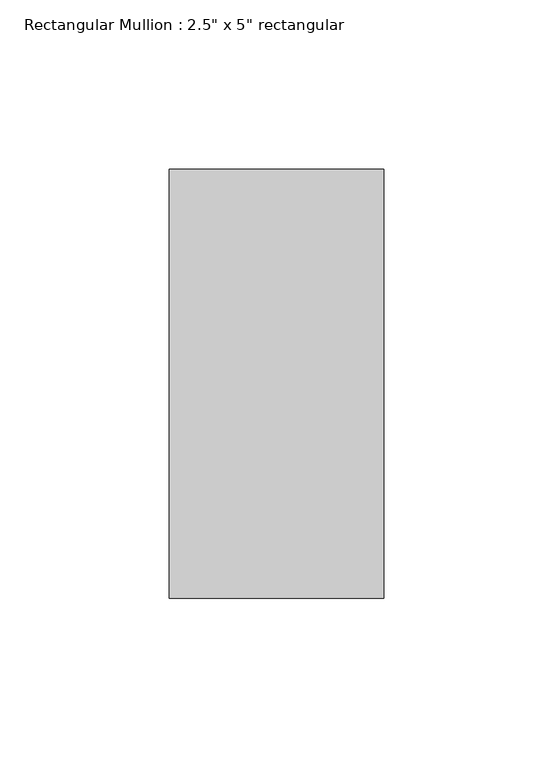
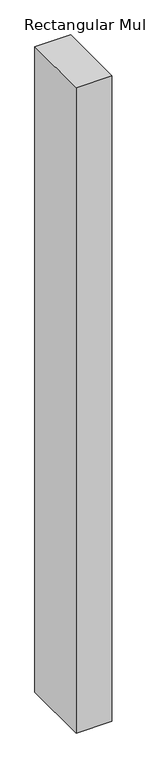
"""IFC4 building model written with IfcOpenShell, lengths in millimetres: member geometry."""

import ifcopenshell
import ifcopenshell.guid

model = None  # the IFC model being written
_history = None  # IfcOwnerHistory: only IFC2X3 demands one
_inside = {}  # id of a spatial element -> (the spatial element, [elements in it])
_under = {}  # id of a project, library or spatial element -> (it, [spatial elements below it])
_declared = {}  # id of a project -> (the project, [libraries it declares])
_typed = {}  # id of a type object -> (the type object, [elements of that type])
_made_of = {}  # id of a material, layer set ... -> (it, [elements and type objects made of it])


def new_model(schema):
    """Start an empty IFC model of exactly this schema.

    Asked for "IFC4X3", IfcOpenShell would pick the latest addendum, in which some entities
    have other attributes; the version numbers below select the first issue.
    IFC2X3 requires an IfcOwnerHistory on every rooted entity: one is made here for all.
    """
    global model, _history
    if schema == "IFC4X3":
        model = ifcopenshell.file(schema_version=(4, 3, 0, 0))
    else:
        model = ifcopenshell.file(schema=schema)
    _inside.clear()
    _under.clear()
    _declared.clear()
    _typed.clear()
    _made_of.clear()
    _history = None
    if model.schema == "IFC2X3":
        org = make("IfcOrganization", Name="unknown")
        user = make(
            "IfcPersonAndOrganization",
            ThePerson=make("IfcPerson", FamilyName="unknown"),
            TheOrganization=org,
        )
        app = make(
            "IfcApplication",
            ApplicationDeveloper=org,
            Version="unknown",
            ApplicationFullName="unknown",
            ApplicationIdentifier="unknown",
        )
        _history = make(
            "IfcOwnerHistory",
            OwningUser=user,
            OwningApplication=app,
            ChangeAction="ADDED",
            CreationDate=0,
        )
    return model


def make(cls, **values):
    """One entity of the class cls with the attributes given. An attribute that is None is left unset."""
    return model.create_entity(
        cls, **{name: value for name, value in values.items() if value is not None}
    )


def rooted(cls, **values):
    """An entity with a GlobalId (a new one), such as an element, a storey or a relation."""
    return make(cls, GlobalId=ifcopenshell.guid.new(), OwnerHistory=_history, **values)


def si_unit(unit_type, name, prefix=None):
    """IfcSIUnit, for example si_unit("LENGTHUNIT", "METRE", prefix="MILLI")."""
    return make("IfcSIUnit", UnitType=unit_type, Prefix=prefix, Name=name)


def assignment(units):
    """IfcUnitAssignment: the units of a project."""
    return None if units is None else make("IfcUnitAssignment", Units=units)


def point(xyz):
    """IfcCartesianPoint."""
    return None if xyz is None else make("IfcCartesianPoint", Coordinates=xyz)


def direction(xyz):
    """IfcDirection."""
    return None if xyz is None else make("IfcDirection", DirectionRatios=xyz)


def frame(location, z_axis=None, x_axis=None):
    """IfcAxis2Placement3D, a coordinate frame: its origin and axes. An axis left out is left unset."""
    return make(
        "IfcAxis2Placement3D",
        Location=point(location),
        Axis=direction(z_axis),
        RefDirection=direction(x_axis),
    )


def origin():
    """The frame at (0, 0, 0) with its axes left unset."""
    return frame((0.0, 0.0, 0.0))


def place(relative_to, where):
    """IfcLocalPlacement: puts the frame where relative to a parent placement (None: the world)."""
    return make(
        "IfcLocalPlacement", PlacementRelTo=relative_to, RelativePlacement=where
    )


def context(
    kind, dimensions, precision=None, world=None, true_north=None, identifier=None
):
    """IfcGeometricRepresentationContext, for example the 3D "Model" context."""
    return make(
        "IfcGeometricRepresentationContext",
        ContextIdentifier=identifier,
        ContextType=kind,
        CoordinateSpaceDimension=dimensions,
        Precision=precision,
        WorldCoordinateSystem=world,
        TrueNorth=true_north,
    )


def project(units=None, contexts=None):
    """IfcProject with its units and contexts."""
    return rooted(
        "IfcProject",
        Name="project",
        RepresentationContexts=contexts,
        UnitsInContext=assignment(units),
    )


def spatial(cls, under=None, at=None, **own):
    """A site, building, storey or space (cls), placed at a placement, below another one or the project."""
    s = rooted(cls, ObjectPlacement=at, **own)
    if under is not None:
        _under.setdefault(under.id(), (under, []))[1].append(s)
    return s


def polyline(points):
    """IfcPolyline through the points."""
    return make("IfcPolyline", Points=[point(p) for p in points])


def outline(outer, holes=None, kind="AREA"):
    """IfcArbitraryClosedProfileDef: a profile drawn as a closed curve; with holes, ...WithVoids."""
    if holes is None:
        return make("IfcArbitraryClosedProfileDef", ProfileType=kind, OuterCurve=outer)
    return make(
        "IfcArbitraryProfileDefWithVoids",
        ProfileType=kind,
        OuterCurve=outer,
        InnerCurves=holes,
    )


def extrude(swept, where, along, depth):
    """IfcExtrudedAreaSolid: the profile swept, set in the frame where, extruded along a direction by depth."""
    return make(
        "IfcExtrudedAreaSolid",
        SweptArea=swept,
        Position=where,
        ExtrudedDirection=direction(along),
        Depth=depth,
    )


def shape(context_of_items, identifier, shape_type, items):
    """IfcShapeRepresentation: the items that make up one representation, for example the "Body"."""
    return make(
        "IfcShapeRepresentation",
        ContextOfItems=context_of_items,
        RepresentationIdentifier=identifier,
        RepresentationType=shape_type,
        Items=items,
    )


def source(mapping_origin, context_of_items, identifier, shape_type, items):
    """IfcRepresentationMap: a shape defined once, which mapped items show again and again."""
    return make(
        "IfcRepresentationMap",
        MappingOrigin=mapping_origin,
        MappedRepresentation=shape(context_of_items, identifier, shape_type, items),
    )


def transform(
    local_origin,
    x_axis=None,
    y_axis=None,
    z_axis=None,
    scale=None,
    scale2=None,
    scale3=None,
    uniform=True,
):
    """IfcCartesianTransformationOperator3D, or its non-uniform kind. x_axis, y_axis, z_axis: its Axis1, 2, 3."""
    if uniform:
        return make(
            "IfcCartesianTransformationOperator3D",
            Axis1=direction(x_axis),
            Axis2=direction(y_axis),
            LocalOrigin=point(local_origin),
            Scale=scale,
            Axis3=direction(z_axis),
        )
    return make(
        "IfcCartesianTransformationOperator3DnonUniform",
        Axis1=direction(x_axis),
        Axis2=direction(y_axis),
        LocalOrigin=point(local_origin),
        Scale=scale,
        Axis3=direction(z_axis),
        Scale2=scale2,
        Scale3=scale3,
    )


def mapped(mapping_source, mapping_target):
    """IfcMappedItem: shows the shape of a source again, moved by a transform."""
    return make(
        "IfcMappedItem", MappingSource=mapping_source, MappingTarget=mapping_target
    )


def made_of(thing, what):
    """Note that an element or type object is made of a material, layer set ...; save() writes the relation."""
    if what is not None:
        _made_of.setdefault(what.id(), (what, []))[1].append(thing)
    return thing


def element(
    cls,
    number,
    at=None,
    inside=None,
    cuts=None,
    type_object=None,
    material=None,
    context=None,
    identifier="Body",
    shape_type=None,
    held_by="IfcProductDefinitionShape",
    body=None,
    shapes=None,
    **own,
):
    """One element of the class cls, such as IfcWall. Its Tag is "e" and its number.

    at: its placement. inside: the storey or other place that contains it. cuts: it is an
    opening in that element (IfcRelVoidsElement). A single representation is given by context,
    identifier, shape_type and body (its items); several are given by shapes. held_by: the class
    of the entity that holds the representations. save() writes the other relations.
    """
    e = rooted(cls, Tag="e%d" % number, ObjectPlacement=at, **own)
    if body is not None:
        shapes = [shape(context, identifier, shape_type, body)]
    if shapes is not None:
        e.Representation = make(held_by, Representations=shapes)
    if inside is not None:
        _inside.setdefault(inside.id(), (inside, []))[1].append(e)
    if cuts is not None:
        rooted(
            "IfcRelVoidsElement", RelatingBuildingElement=cuts, RelatedOpeningElement=e
        )
    if type_object is not None:
        _typed.setdefault(type_object.id(), (type_object, []))[1].append(e)
    return made_of(e, material)


def aggregate(whole, parts):
    """IfcRelAggregates: a whole, such as a stair, and the parts it consists of."""
    return rooted("IfcRelAggregates", RelatingObject=whole, RelatedObjects=parts)


def save(model, path):
    """Write the relations noted so far, then the file.

    IfcRelAggregates (storeys below a building ...), IfcRelContainedInSpatialStructure (elements
    in a storey), IfcRelDefinesByType, IfcRelAssociatesMaterial and IfcRelDeclares: one each for
    every whole, place, type object, material and project.
    """
    for whole, parts in _under.values():
        aggregate(whole, parts)
    for where, things in _inside.values():
        rooted(
            "IfcRelContainedInSpatialStructure",
            RelatedElements=things,
            RelatingStructure=where,
        )
    for kind, things in _typed.values():
        rooted("IfcRelDefinesByType", RelatedObjects=things, RelatingType=kind)
    for what, things in _made_of.values():
        rooted("IfcRelAssociatesMaterial", RelatedObjects=things, RelatingMaterial=what)
    for by, libraries in _declared.values():
        rooted("IfcRelDeclares", RelatingContext=by, RelatedDefinitions=libraries)
    model.write(path)


def member_7aba495a(model_context):
    return source(origin(), model_context, "Body", "SweptSolid", [
        extrude(outline(polyline([(31.75, 63.5), (31.75, -63.5), (-31.75, -63.5), (-31.75, 63.5), (31.75, 63.5)])), frame((0.0, 0.0, -1214.1842807), z_axis=(0.0, 0.0, 1.0), x_axis=(1.0, 0.0, 0.0)), (0.0, 0.0, 1.0), 1214.1842807),
    ])


if __name__ == "__main__":
    model = new_model("IFC4")
    model_context = context("Model", 3, world=origin())
    ifc_project = project(units=[si_unit("LENGTHUNIT", "METRE", prefix="MILLI")], contexts=[model_context])
    site = spatial("IfcSite", under=ifc_project)
    building = spatial("IfcBuilding", under=site)
    placement = place(None, origin())
    member_shape = member_7aba495a(model_context)
    element("IfcMember", 1, ObjectType="Rectangular Mullion : 2.5\" x 5\" rectangular", at=placement, inside=building, context=model_context, shape_type="MappedRepresentation", body=[
        mapped(member_shape, transform((0.0, 0.0, 0.0), x_axis=(1.0, 0.0, 0.0), y_axis=(0.0, 1.0, 0.0), z_axis=(0.0, 0.0, 1.0))),
    ])
    save(model, "model.ifc")
